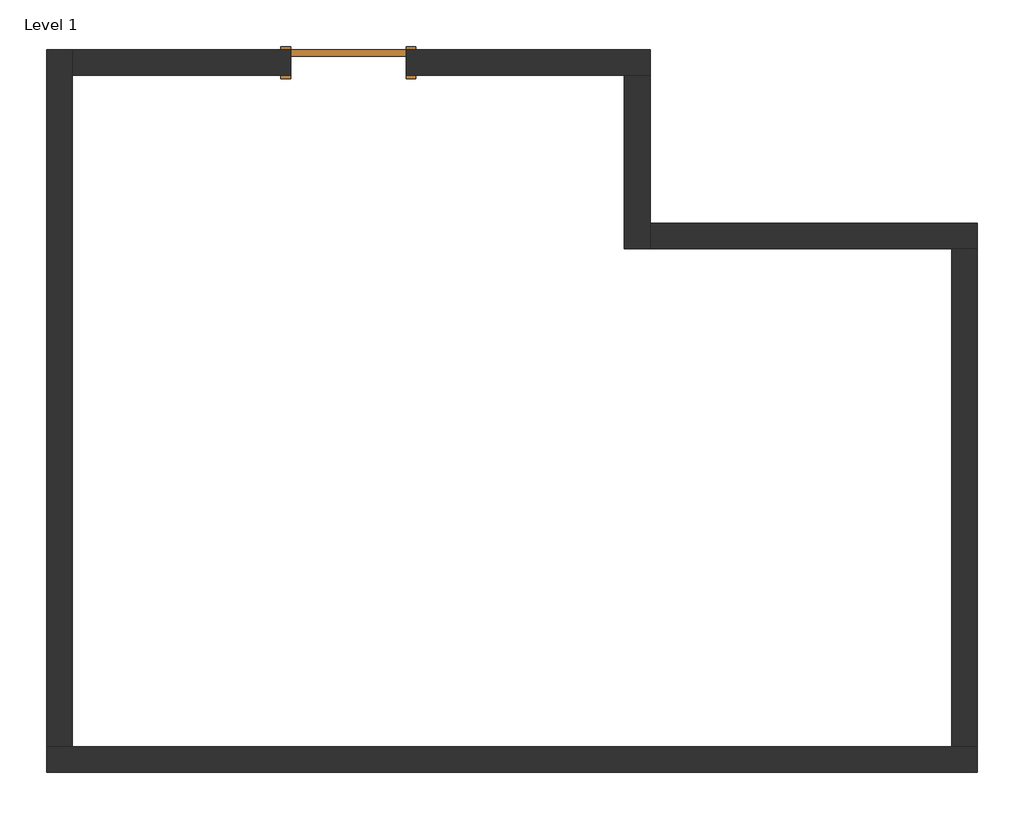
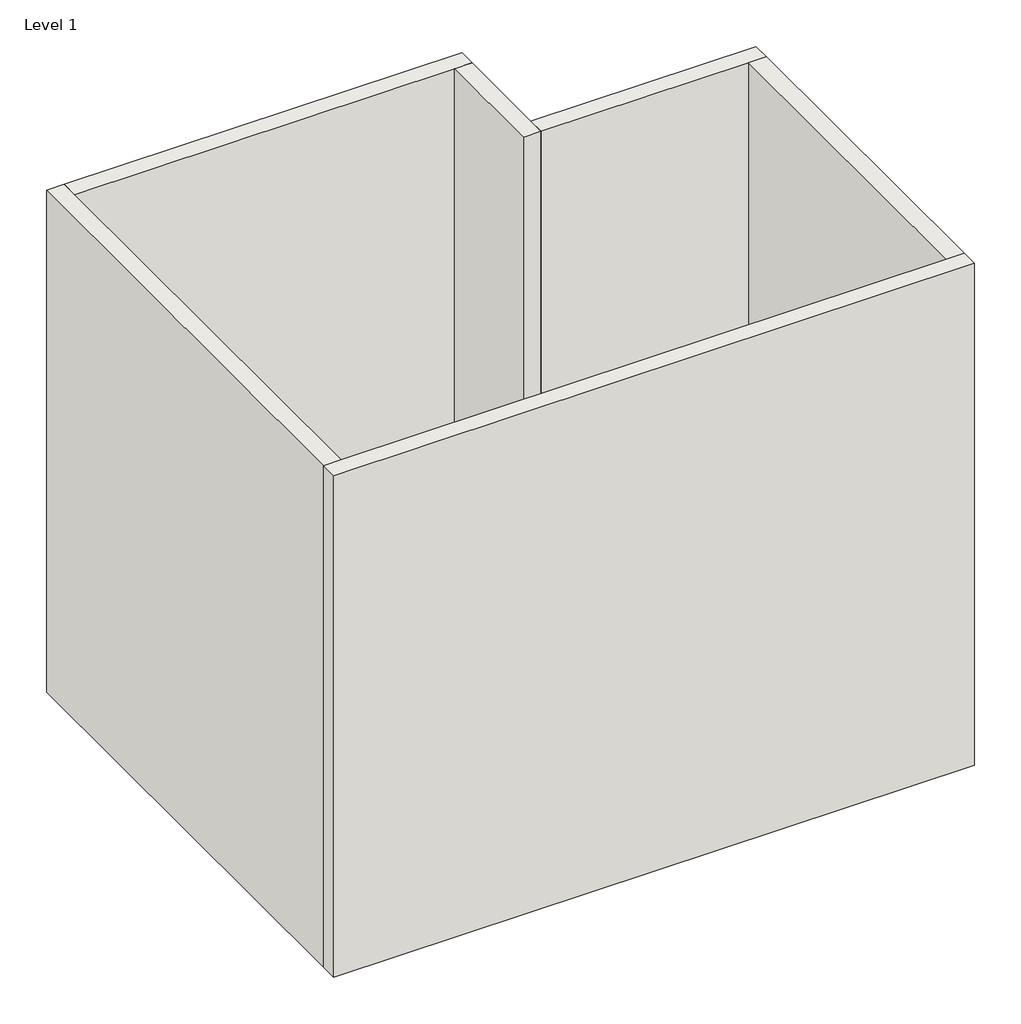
# One storey: 6 walls, 1 door.
"""IFC4 building model written with IfcOpenShell, lengths in millimetres."""

from ifc_helpers import new_model, si_unit, origin, origin_with_axes, place, context, project, spatial, polyline, outline, extrude, faceted_brep, transform, mapped, element, save
from components import door_54dd4da4

model = new_model("IFC4")

# Units and contexts
model_context = context("Model", 3, world=origin())
ifc_project = project(units=[si_unit("LENGTHUNIT", "METRE", prefix="MILLI")], contexts=[model_context])

# Site, building, storey
site = spatial("IfcSite", under=ifc_project)
building = spatial("IfcBuilding", under=site)
storey = spatial("IfcBuildingStorey", under=building, Name="Level 1", Elevation=0.0)

# Door
placement = place(None, origin())
door_shape = door_54dd4da4(model_context)
element("IfcDoor", 1, ObjectType="Single-Flush : 36\" x 84\"", at=placement, inside=storey, context=model_context, shape_type="MappedRepresentation", body=[
    mapped(door_shape, transform((-3157.8903112, 4867.2245418, 0.0), x_axis=(1.0, 0.0, 0.0), y_axis=(0.0, 1.0, 0.0), z_axis=(0.0, 0.0, 1.0))),
])

# Walls
element("IfcWall", 2, ObjectType="Generic - 8\"", at=placement, inside=storey, context=model_context, shape_type="Brep", body=[
    faceted_brep([(-5342.2903112, -544.9483191, 0.0), (-5342.2903112, 4765.6245418, 0.0), (-5342.2903112, 4968.8245418, 0.0), (-5342.2903112, 4968.8245418, 6096.0), (-5342.2903112, 4765.6245418, 6096.0), (-5342.2903112, -544.9483191, 6096.0), (-5545.4903112, -544.9483191, 0.0), (-5545.4903112, -544.9483191, 6096.0), (-5545.4903112, 4968.8245418, 6096.0), (-5545.4903112, 4968.8245418, 0.0)], [[[0, 1, 2, 3, 4, 5]], [[6, 7, 8, 9]], [[2, 1, 0, 6, 9]], [[5, 4, 3, 8, 7]], [[3, 2, 9, 8]], [[0, 5, 7, 6]]]),
])
element("IfcWall", 3, ObjectType="Generic - 8\"", at=placement, inside=storey, context=model_context, shape_type="Brep", body=[
    faceted_brep([(-2700.6903112, 4765.6245418, 2133.6), (-2700.6903112, 4765.6245418, 0.0), (-973.4903112, 4765.6245418, 0.0), (-770.2903112, 4765.6245418, 0.0), (-770.2903112, 4765.6245418, 6096.0), (-973.4903112, 4765.6245418, 6096.0), (-5342.2903112, 4765.6245418, 6096.0), (-5342.2903112, 4765.6245418, 0.0), (-3615.0903112, 4765.6245418, 0.0), (-3615.0903112, 4765.6245418, 2133.6), (-770.2903112, 4968.8245418, 0.0), (-2700.6903112, 4968.8245418, 0.0), (-2700.6903112, 4968.8245418, 2133.6), (-3615.0903112, 4968.8245418, 2133.6), (-3615.0903112, 4968.8245418, 0.0), (-5342.2903112, 4968.8245418, 0.0), (-5342.2903112, 4968.8245418, 6096.0), (-770.2903112, 4968.8245418, 6096.0)], [[[0, 1, 2, 3, 4, 5, 6, 7, 8, 9]], [[10, 11, 12, 13, 14, 15, 16, 17]], [[8, 7, 15, 14]], [[3, 2, 1, 11, 10]], [[6, 5, 4, 17, 16]], [[7, 6, 16, 15]], [[4, 3, 10, 17]], [[12, 11, 1, 0]], [[13, 12, 0, 9]], [[14, 13, 9, 8]]]),
])
element("IfcWall", 4, ObjectType="Generic - 8\"", at=placement, inside=storey, context=model_context, shape_type="Brep", body=[
    faceted_brep([(-973.4903112, 4765.6245418, 0.0), (-973.4903112, 3394.0245418, 0.0), (-973.4903112, 3394.0245418, 6096.0), (-973.4903112, 4765.6245418, 6096.0), (-770.2903112, 4765.6245418, 0.0), (-770.2903112, 4765.6245418, 6096.0), (-770.2903112, 3597.2245418, 6096.0), (-770.2903112, 3394.0245418, 6096.0), (-770.2903112, 3394.0245418, 0.0), (-770.2903112, 3597.2245418, 0.0)], [[[0, 1, 2, 3]], [[4, 5, 6, 7, 8, 9]], [[1, 0, 4, 9, 8]], [[3, 2, 7, 6, 5]], [[0, 3, 5, 4]], [[2, 1, 8, 7]]]),
])
element("IfcWall", 5, ObjectType="Generic - 8\"", at=placement, inside=storey, context=model_context, shape_type="Brep", body=[
    faceted_brep([(-770.2903112, 3394.0245418, 0.0), (1617.3096888, 3394.0245418, 0.0), (1820.5096888, 3394.0245418, 0.0), (1820.5096888, 3394.0245418, 6096.0), (1617.3096888, 3394.0245418, 6096.0), (-770.2903112, 3394.0245418, 6096.0), (-770.2903112, 3597.2245418, 0.0), (-770.2903112, 3597.2245418, 6096.0), (1820.5096888, 3597.2245418, 6096.0), (1820.5096888, 3597.2245418, 0.0)], [[[0, 1, 2, 3, 4, 5]], [[6, 7, 8, 9]], [[2, 1, 0, 6, 9]], [[5, 4, 3, 8, 7]], [[0, 5, 7, 6]], [[3, 2, 9, 8]]]),
])
element("IfcWall", 6, ObjectType="Generic - 8\"", at=placement, inside=storey, context=model_context, shape_type="SweptSolid", body=[
    extrude(outline(polyline([(1617.3096888, -544.9483191), (1617.3096888, 3394.0245418), (1820.5096888, 3394.0245418), (1820.5096888, -544.9483191), (1617.3096888, -544.9483191)])), origin_with_axes(), (0.0, 0.0, 1.0), 6096.0),
])
element("IfcWall", 7, ObjectType="Generic - 8\"", at=placement, inside=storey, context=model_context, shape_type="Brep", body=[
    faceted_brep([(1820.5096888, -544.9483191, 0.0), (1617.3096888, -544.9483191, 0.0), (-5342.2903112, -544.9483191, 0.0), (-5545.4903112, -544.9483191, 0.0), (-5545.4903112, -544.9483191, 6096.0), (-5342.2903112, -544.9483191, 6096.0), (1617.3096888, -544.9483191, 6096.0), (1820.5096888, -544.9483191, 6096.0), (1820.5096888, -748.1483191, 0.0), (1820.5096888, -748.1483191, 6096.0), (-5545.4903112, -748.1483191, 6096.0), (-5545.4903112, -748.1483191, 0.0)], [[[0, 1, 2, 3, 4, 5, 6, 7]], [[8, 9, 10, 11]], [[3, 2, 1, 0, 8, 11]], [[7, 6, 5, 4, 10, 9]], [[4, 3, 11, 10]], [[0, 7, 9, 8]]]),
])

save(model, "model.ifc")
